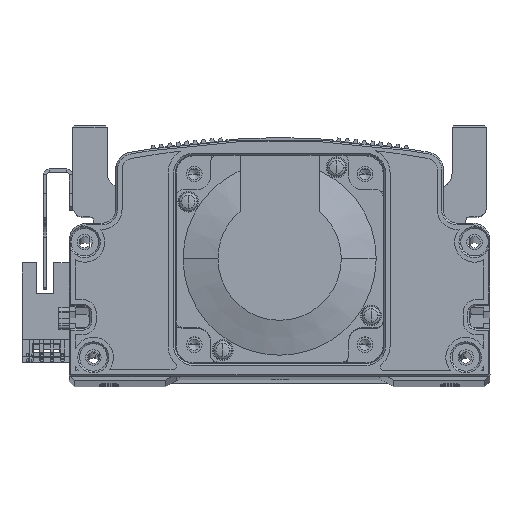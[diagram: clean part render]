
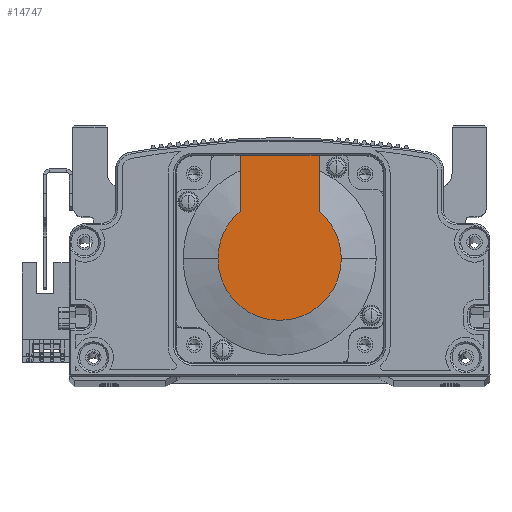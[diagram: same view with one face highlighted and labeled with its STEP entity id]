
A CAD part, top view. The second image highlights one B-rep face of the part: STEP entity #14747.
In plain terms, the highlighted planar face has unit normal (0, 0, 1) as drawn and (-1, 0, 0) by its records, which use the part's own axes.
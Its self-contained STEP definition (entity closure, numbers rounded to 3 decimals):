
#308 = LINE ( 'NONE', #31764, #2969 ) ;
#502 = DIRECTION ( 'NONE',  ( 0., 0., 1. ) ) ;
#2133 = CARTESIAN_POINT ( 'NONE',  ( -118.5, 0., 0. ) ) ;
#2748 = AXIS2_PLACEMENT_3D ( 'NONE', #35759, #13246, #58248 ) ;
#2969 = VECTOR ( 'NONE', #71500, 1000. ) ;
#4064 = VERTEX_POINT ( 'NONE', #26895 ) ;
#4807 = AXIS2_PLACEMENT_3D ( 'NONE', #2133, #65302, #31086 ) ;
#7639 = VECTOR ( 'NONE', #502, 1000. ) ;
#8373 = CARTESIAN_POINT ( 'NONE',  ( -118.5, 0., 17.881 ) ) ;
#9979 = VERTEX_POINT ( 'NONE', #29512 ) ;
#13009 = CARTESIAN_POINT ( 'NONE',  ( -118.5, -8.941, -11.45 ) ) ;
#13246 = DIRECTION ( 'NONE',  ( -1., 0., 0. ) ) ;
#13381 = FACE_OUTER_BOUND ( 'NONE', #20633, .T. ) ;
#14747 = ADVANCED_FACE ( 'NONE', ( #13381 ), #18267, .T. ) ;
#14780 = EDGE_CURVE ( 'NONE', #59288, #52045, #66153, .T. ) ;
#15923 = ORIENTED_EDGE ( 'NONE', *, *, #55720, .F. ) ;
#17853 = EDGE_CURVE ( 'NONE', #4064, #9979, #43448, .T. ) ;
#18267 = PLANE ( 'NONE',  #35781 ) ;
#20633 = EDGE_LOOP ( 'NONE', ( #26041, #40081, #49932, #41639, #15923, #44403 ) ) ;
#23096 = VERTEX_POINT ( 'NONE', #59421 ) ;
#23623 = LINE ( 'NONE', #34699, #7639 ) ;
#26041 = ORIENTED_EDGE ( 'NONE', *, *, #59789, .T. ) ;
#26895 = CARTESIAN_POINT ( 'NONE',  ( -118.5, 13.735, -11.45 ) ) ;
#29512 = CARTESIAN_POINT ( 'NONE',  ( -118.5, 0., -17.881 ) ) ;
#29701 = AXIS2_PLACEMENT_3D ( 'NONE', #29906, #43398, #35896 ) ;
#29906 = CARTESIAN_POINT ( 'NONE',  ( -118.5, 0., 0. ) ) ;
#30005 = CARTESIAN_POINT ( 'NONE',  ( -118.5, -8.941, 0. ) ) ;
#31086 = DIRECTION ( 'NONE',  ( 0., 0., -1. ) ) ;
#31543 = VECTOR ( 'NONE', #58012, 1000. ) ;
#31764 = CARTESIAN_POINT ( 'NONE',  ( -118.5, 0., 11.45 ) ) ;
#34699 = CARTESIAN_POINT ( 'NONE',  ( -118.5, 30., 25. ) ) ;
#35522 = CARTESIAN_POINT ( 'NONE',  ( -118.5, 30., 11.45 ) ) ;
#35759 = CARTESIAN_POINT ( 'NONE',  ( -118.5, 0., 0. ) ) ;
#35781 = AXIS2_PLACEMENT_3D ( 'NONE', #30005, #64484, #41480 ) ;
#35896 = DIRECTION ( 'NONE',  ( 0., 0., -1. ) ) ;
#36006 = LINE ( 'NONE', #13009, #31543 ) ;
#40081 = ORIENTED_EDGE ( 'NONE', *, *, #17853, .T. ) ;
#41480 = DIRECTION ( 'NONE',  ( 0., 0., 1. ) ) ;
#41639 = ORIENTED_EDGE ( 'NONE', *, *, #14780, .T. ) ;
#41930 = EDGE_CURVE ( 'NONE', #23096, #59781, #23623, .T. ) ;
#43398 = DIRECTION ( 'NONE',  ( -1., 0., 0. ) ) ;
#43448 = CIRCLE ( 'NONE', #4807, 17.881 ) ;
#44403 = ORIENTED_EDGE ( 'NONE', *, *, #41930, .F. ) ;
#45571 = CIRCLE ( 'NONE', #29701, 17.881 ) ;
#49152 = EDGE_CURVE ( 'NONE', #9979, #59288, #45571, .T. ) ;
#49932 = ORIENTED_EDGE ( 'NONE', *, *, #49152, .T. ) ;
#52045 = VERTEX_POINT ( 'NONE', #69950 ) ;
#55720 = EDGE_CURVE ( 'NONE', #59781, #52045, #308, .T. ) ;
#58012 = DIRECTION ( 'NONE',  ( 0., -1., 0. ) ) ;
#58248 = DIRECTION ( 'NONE',  ( 0., 0., -1. ) ) ;
#59288 = VERTEX_POINT ( 'NONE', #8373 ) ;
#59421 = CARTESIAN_POINT ( 'NONE',  ( -118.5, 30., -11.45 ) ) ;
#59781 = VERTEX_POINT ( 'NONE', #35522 ) ;
#59789 = EDGE_CURVE ( 'NONE', #23096, #4064, #36006, .T. ) ;
#64484 = DIRECTION ( 'NONE',  ( -1., 0., 0. ) ) ;
#65302 = DIRECTION ( 'NONE',  ( -1., 0., 0. ) ) ;
#66153 = CIRCLE ( 'NONE', #2748, 17.881 ) ;
#69950 = CARTESIAN_POINT ( 'NONE',  ( -118.5, 13.735, 11.45 ) ) ;
#71500 = DIRECTION ( 'NONE',  ( 0., -1., 0. ) ) ;
